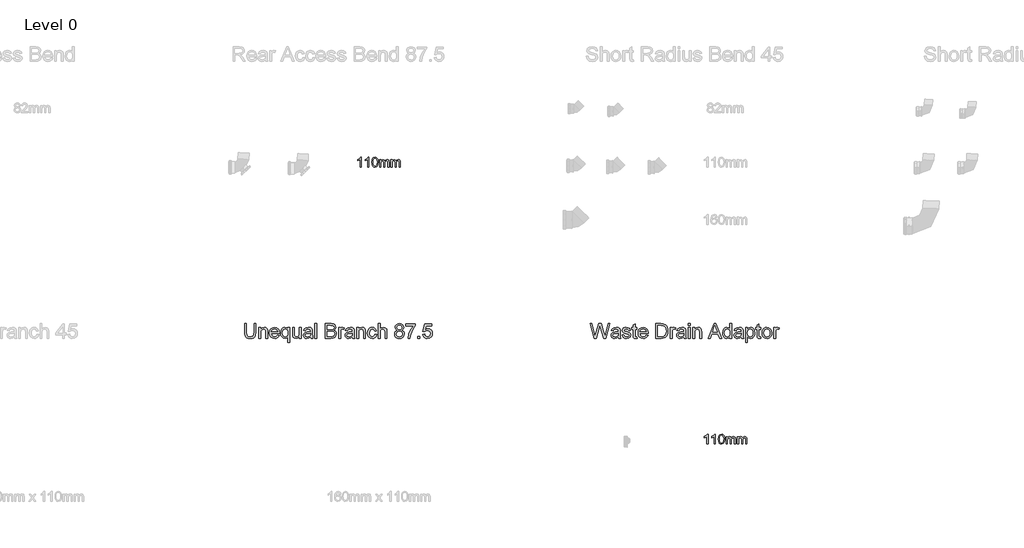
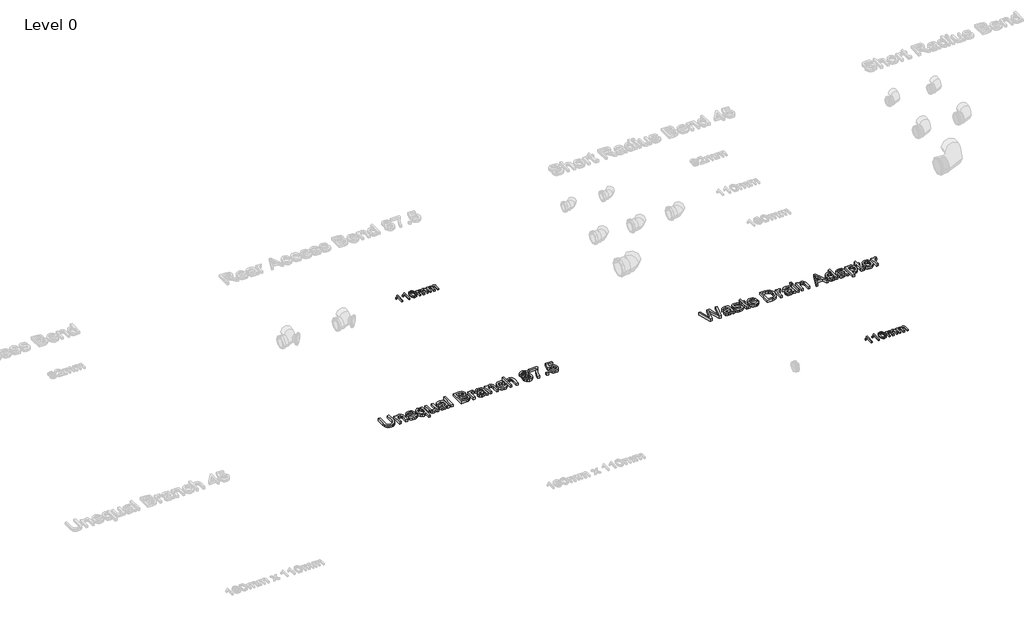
# One storey, part 4 of 23: 4 proxies.
"""IFC4 building model written with IfcOpenShell, lengths in millimetres."""

from ifc_helpers import new_model, si_unit, origin, origin_with_axes, place, context, project, spatial, polyline, outline, extrude, element, save

model = new_model("IFC4")

# Units and contexts
model_context = context("Model", 3, world=origin())
ifc_project = project(units=[si_unit("LENGTHUNIT", "METRE", prefix="MILLI")], contexts=[model_context])

# Site, building, storey
site = spatial("IfcSite", under=ifc_project)
building = spatial("IfcBuilding", under=site)
storey = spatial("IfcBuildingStorey", under=building, Name="Level 0", Elevation=0.0)

# Proxies
placement = place(None, origin())
element("IfcBuildingElementProxy", 1, Name="100mm Arial", ObjectType="100mm Arial", at=placement, inside=storey, context=model_context, shape_type="SweptSolid", body=[
    extrude(outline(polyline([(-10291.7293188, -162.2832696), (-10304.0370111, -162.2832696), (-10304.0370111, -85.5525004), (-10315.6956649, -93.8577889), (-10328.6523957, -100.0717312), (-10328.6523957, -88.4371158), (-10310.6115303, -76.9226927), (-10299.6620111, -63.8217312), (-10291.7293188, -63.8217312), (-10291.7293188, -162.2832696)])), origin_with_axes(), (0.0, 0.0, 1.0), 15.0),
    extrude(outline(polyline([(-10216.3447034, -162.2832696), (-10228.6523957, -162.2832696), (-10228.6523957, -85.5525004), (-10240.3110495, -93.8577889), (-10253.2677803, -100.0717312), (-10253.2677803, -88.4371158), (-10235.2269149, -76.9226927), (-10224.2773957, -63.8217312), (-10216.3447034, -63.8217312), (-10216.3447034, -162.2832696)])), origin_with_axes(), (0.0, 0.0, 1.0), 15.0),
    extrude(outline(polyline([(-10187.1139341, -113.8457696), (-10183.4961457, -85.5164427), (-10172.7509534, -69.1823081), (-10154.8062418, -63.8217312), (-10140.4312418, -66.9948081), (-10130.5033572, -76.1414427), (-10124.7341264, -90.7087504), (-10122.4985495, -113.8457696), (-10126.0802803, -142.0549042), (-10136.7894149, -158.4250965), (-10154.8062418, -163.8217312), (-10167.5947034, -161.4779812), (-10177.3062418, -154.4467312), (-10184.6620111, -137.7940869), (-10187.1139341, -113.8457696)]), holes=[polyline([(-10174.8062418, -113.8217312), (-10173.3639341, -133.1817071), (-10169.0370111, -144.386635), (-10162.5947034, -149.7321879), (-10154.8062418, -151.5140389), (-10147.0177803, -149.7261783), (-10140.5754726, -144.3625965), (-10136.2485495, -133.151659), (-10134.8062418, -113.8217312), (-10136.2004726, -94.8974523), (-10140.3831649, -83.605385), (-10146.8134534, -77.9984139), (-10154.9504726, -76.1294235), (-10162.6547995, -77.7760581), (-10168.8447034, -82.7159619), (-10173.3158572, -94.7111542), (-10174.8062418, -113.8217312)])]), origin_with_axes(), (0.0, 0.0, 1.0), 15.0),
    extrude(outline(polyline([(-10108.6523957, -162.2832696), (-10108.6523957, -89.9755773), (-10096.3447034, -89.9755773), (-10096.3447034, -101.8746158), (-10087.8831649, -92.1270196), (-10075.8398957, -88.4371158), (-10063.5081649, -92.199135), (-10056.7293188, -102.7400004), (-10047.1259534, -92.0128369), (-10034.9985495, -88.4371158), (-10025.7467466, -89.9244956), (-10018.9047995, -94.386635), (-10014.6770351, -101.9437264), (-10013.2677803, -112.7159619), (-10013.2677803, -162.2832696), (-10025.5754726, -162.2832696), (-10025.5754726, -118.0044235), (-10026.7172995, -107.7279812), (-10030.8519149, -102.667885), (-10037.8831649, -100.7448081), (-10049.9865303, -105.6726927), (-10054.8062418, -121.4659619), (-10054.8062418, -162.2832696), (-10067.1139341, -162.2832696), (-10067.1139341, -116.6342312), (-10069.9624918, -104.7111542), (-10079.3014341, -100.7448081), (-10088.4120111, -103.3890389), (-10094.4697034, -111.1294235), (-10096.3447034, -125.8169235), (-10096.3447034, -162.2832696), (-10108.6523957, -162.2832696)])), origin_with_axes(), (0.0, 0.0, 1.0), 15.0),
    extrude(outline(polyline([(-9994.8062418, -162.2832696), (-9994.8062418, -89.9755773), (-9982.4985495, -89.9755773), (-9982.4985495, -101.8746158), (-9974.0370111, -92.1270196), (-9961.9937418, -88.4371158), (-9949.6620111, -92.199135), (-9942.8831649, -102.7400004), (-9933.2797995, -92.0128369), (-9921.1523957, -88.4371158), (-9911.9005928, -89.9244956), (-9905.0586457, -94.386635), (-9900.8308813, -101.9437264), (-9899.4216264, -112.7159619), (-9899.4216264, -162.2832696), (-9911.7293188, -162.2832696), (-9911.7293188, -118.0044235), (-9912.8711457, -107.7279812), (-9917.0057611, -102.667885), (-9924.0370111, -100.7448081), (-9936.1403764, -105.6726927), (-9940.960088, -121.4659619), (-9940.960088, -162.2832696), (-9953.2677803, -162.2832696), (-9953.2677803, -116.6342312), (-9956.116338, -104.7111542), (-9965.4552803, -100.7448081), (-9974.5658572, -103.3890389), (-9980.6235495, -111.1294235), (-9982.4985495, -125.8169235), (-9982.4985495, -162.2832696), (-9994.8062418, -162.2832696)])), origin_with_axes(), (0.0, 0.0, 1.0), 15.0),
])
element("IfcBuildingElementProxy", 2, Name="100mm Arial", ObjectType="100mm Arial", at=placement, inside=storey, context=model_context, shape_type="SweptSolid", body=[
    extrude(outline(polyline([(-6791.7293188, -2962.2832696), (-6804.0370111, -2962.2832696), (-6804.0370111, -2885.5525004), (-6815.6956649, -2893.8577889), (-6828.6523957, -2900.0717312), (-6828.6523957, -2888.4371158), (-6810.6115303, -2876.9226927), (-6799.6620111, -2863.8217312), (-6791.7293188, -2863.8217312), (-6791.7293188, -2962.2832696)])), origin_with_axes(), (0.0, 0.0, 1.0), 15.0),
    extrude(outline(polyline([(-6716.3447034, -2962.2832696), (-6728.6523957, -2962.2832696), (-6728.6523957, -2885.5525004), (-6740.3110495, -2893.8577889), (-6753.2677803, -2900.0717312), (-6753.2677803, -2888.4371158), (-6735.2269149, -2876.9226927), (-6724.2773957, -2863.8217312), (-6716.3447034, -2863.8217312), (-6716.3447034, -2962.2832696)])), origin_with_axes(), (0.0, 0.0, 1.0), 15.0),
    extrude(outline(polyline([(-6687.1139341, -2913.8457696), (-6683.4961457, -2885.5164427), (-6672.7509534, -2869.1823081), (-6654.8062418, -2863.8217312), (-6640.4312418, -2866.9948081), (-6630.5033572, -2876.1414427), (-6624.7341264, -2890.7087504), (-6622.4985495, -2913.8457696), (-6626.0802803, -2942.0549042), (-6636.7894149, -2958.4250965), (-6654.8062418, -2963.8217312), (-6667.5947034, -2961.4779812), (-6677.3062418, -2954.4467312), (-6684.6620111, -2937.7940869), (-6687.1139341, -2913.8457696)]), holes=[polyline([(-6674.8062418, -2913.8217312), (-6673.3639341, -2933.1817071), (-6669.0370111, -2944.386635), (-6662.5947034, -2949.7321879), (-6654.8062418, -2951.5140389), (-6647.0177803, -2949.7261783), (-6640.5754726, -2944.3625965), (-6636.2485495, -2933.151659), (-6634.8062418, -2913.8217312), (-6636.2004726, -2894.8974523), (-6640.3831649, -2883.605385), (-6646.8134534, -2877.9984139), (-6654.9504726, -2876.1294235), (-6662.6547995, -2877.7760581), (-6668.8447034, -2882.7159619), (-6673.3158572, -2894.7111542), (-6674.8062418, -2913.8217312)])]), origin_with_axes(), (0.0, 0.0, 1.0), 15.0),
    extrude(outline(polyline([(-6608.6523957, -2962.2832696), (-6608.6523957, -2889.9755773), (-6596.3447034, -2889.9755773), (-6596.3447034, -2901.8746158), (-6587.8831649, -2892.1270196), (-6575.8398957, -2888.4371158), (-6563.5081649, -2892.199135), (-6556.7293188, -2902.7400004), (-6547.1259534, -2892.0128369), (-6534.9985495, -2888.4371158), (-6525.7467466, -2889.9244956), (-6518.9047995, -2894.386635), (-6514.6770351, -2901.9437264), (-6513.2677803, -2912.7159619), (-6513.2677803, -2962.2832696), (-6525.5754726, -2962.2832696), (-6525.5754726, -2918.0044235), (-6526.7172995, -2907.7279812), (-6530.8519149, -2902.667885), (-6537.8831649, -2900.7448081), (-6549.9865303, -2905.6726927), (-6554.8062418, -2921.4659619), (-6554.8062418, -2962.2832696), (-6567.1139341, -2962.2832696), (-6567.1139341, -2916.6342312), (-6569.9624918, -2904.7111542), (-6579.3014341, -2900.7448081), (-6588.4120111, -2903.3890389), (-6594.4697034, -2911.1294235), (-6596.3447034, -2925.8169235), (-6596.3447034, -2962.2832696), (-6608.6523957, -2962.2832696)])), origin_with_axes(), (0.0, 0.0, 1.0), 15.0),
    extrude(outline(polyline([(-6494.8062418, -2962.2832696), (-6494.8062418, -2889.9755773), (-6482.4985495, -2889.9755773), (-6482.4985495, -2901.8746158), (-6474.0370111, -2892.1270196), (-6461.9937418, -2888.4371158), (-6449.6620111, -2892.199135), (-6442.8831649, -2902.7400004), (-6433.2797995, -2892.0128369), (-6421.1523957, -2888.4371158), (-6411.9005928, -2889.9244956), (-6405.0586457, -2894.386635), (-6400.8308813, -2901.9437264), (-6399.4216264, -2912.7159619), (-6399.4216264, -2962.2832696), (-6411.7293188, -2962.2832696), (-6411.7293188, -2918.0044235), (-6412.8711457, -2907.7279812), (-6417.0057611, -2902.667885), (-6424.0370111, -2900.7448081), (-6436.1403764, -2905.6726927), (-6440.960088, -2921.4659619), (-6440.960088, -2962.2832696), (-6453.2677803, -2962.2832696), (-6453.2677803, -2916.6342312), (-6456.116338, -2904.7111542), (-6465.4552803, -2900.7448081), (-6474.5658572, -2903.3890389), (-6480.6235495, -2911.1294235), (-6482.4985495, -2925.8169235), (-6482.4985495, -2962.2832696), (-6494.8062418, -2962.2832696)])), origin_with_axes(), (0.0, 0.0, 1.0), 15.0),
])
element("IfcBuildingElementProxy", 3, Name="150mm Arial", ObjectType="150mm Arial", at=placement, inside=storey, context=model_context, shape_type="SweptSolid", body=[
    extrude(outline(polyline([(-11375.9895281, -1747.0931704), (-11357.5279897, -1747.0931704), (-11357.5279897, -1832.2974973), (-11362.5400089, -1867.6160069), (-11369.5622445, -1879.4699733), (-11380.6049127, -1888.8900454), (-11395.695057, -1895.0423891), (-11414.8597204, -1897.0931704), (-11433.6052132, -1895.3083146), (-11448.5916916, -1889.9537473), (-11459.8236627, -1881.2142641), (-11467.3056339, -1869.2746608), (-11471.5108622, -1853.2605382), (-11472.912605, -1832.2974973), (-11472.912605, -1747.0931704), (-11454.4510666, -1747.0931704), (-11454.4510666, -1831.6484589), (-11450.8092397, -1859.7914877), (-11445.8603214, -1867.7917882), (-11438.2972204, -1873.7277858), (-11416.5904897, -1878.6316319), (-11397.8134464, -1876.2067521), (-11385.3284704, -1868.9321127), (-11378.3242637, -1854.7614396), (-11375.9895281, -1831.6484589), (-11375.9895281, -1747.0931704)])), origin_with_axes(), (0.0, 0.0, 1.0), 25.0),
    extrude(outline(polyline([(-11327.5279897, -1894.7854781), (-11327.5279897, -1786.3239396), (-11309.0664512, -1786.3239396), (-11309.0664512, -1801.4681704), (-11294.9498647, -1788.3792281), (-11275.6770281, -1784.0162473), (-11258.2431339, -1787.5318723), (-11246.3440954, -1796.7626415), (-11240.8092397, -1810.3383627), (-11239.835682, -1828.1869204), (-11239.835682, -1894.7854781), (-11258.2972204, -1894.7854781), (-11258.2972204, -1830.6749012), (-11260.4246243, -1814.3407665), (-11267.9426531, -1805.7049492), (-11280.616932, -1802.4777858), (-11291.4297324, -1804.2896848), (-11300.64698, -1809.7253819), (-11306.9615834, -1820.2271848), (-11309.0664512, -1837.2374012), (-11309.0664512, -1894.7854781), (-11327.5279897, -1894.7854781)])), origin_with_axes(), (0.0, 0.0, 1.0), 25.0),
    extrude(outline(polyline([(-11138.5135666, -1862.4777858), (-11120.412605, -1864.7854781), (-11126.9345401, -1878.4243002), (-11137.3416916, -1888.6196127), (-11151.3996844, -1894.974781), (-11168.8741435, -1897.0931704), (-11190.5358022, -1893.4378218), (-11207.2034704, -1882.4717762), (-11217.8314752, -1864.9071728), (-11221.3741435, -1841.4561512), (-11217.7954175, -1817.2163675), (-11207.0592397, -1799.0883627), (-11190.616932, -1787.7842762), (-11169.9198166, -1784.0162473), (-11149.8672324, -1787.7752617), (-11133.8440954, -1799.052305), (-11123.3377853, -1817.1442521), (-11119.835682, -1841.3479781), (-11119.943855, -1846.3239396), (-11202.912605, -1846.3239396), (-11199.7169921, -1860.1430502), (-11192.2936147, -1870.302305), (-11181.5799728, -1876.5493002), (-11168.5135666, -1878.6316319), (-11150.412605, -1874.7734589), (-11138.5135666, -1862.4777858)]), holes=[polyline([(-11202.912605, -1827.8624012), (-11138.2972204, -1827.8624012), (-11140.7942156, -1818.1087954), (-11145.6890473, -1811.1316319), (-11156.4522685, -1804.6412473), (-11169.991932, -1802.4777858), (-11182.436343, -1804.2040478), (-11192.726307, -1809.3828339), (-11199.8792517, -1817.4552497), (-11202.912605, -1827.8624012)])]), origin_with_axes(), (0.0, 0.0, 1.0), 25.0),
    extrude(outline(polyline([(-11034.4510666, -1936.3239396), (-11034.4510666, -1880.0018242), (-11046.1698166, -1892.2253819), (-11062.179432, -1897.0931704), (-11079.7305137, -1893.2485189), (-11094.6674127, -1881.7145646), (-11104.8897685, -1863.4828939), (-11108.2972204, -1839.5450935), (-11102.8885666, -1810.302305), (-11096.2629656, -1798.9261031), (-11087.2034704, -1790.6869204), (-11076.4312348, -1785.6839156), (-11064.6674127, -1784.0162473), (-11047.5039512, -1789.1905262), (-11034.4510666, -1804.7133627), (-11034.4510666, -1786.3239396), (-11015.9895281, -1786.3239396), (-11015.9895281, -1936.3239396), (-11034.4510666, -1936.3239396)]), holes=[polyline([(-11089.835682, -1840.5547089), (-11087.7578574, -1857.2133627), (-11081.5243839, -1869.1124012), (-11072.3882661, -1876.2518242), (-11061.6025089, -1878.6316319), (-11051.2674728, -1876.3690117), (-11042.4739031, -1869.5811512), (-11036.4567757, -1858.1688915), (-11034.4510666, -1842.0330742), (-11036.5649488, -1824.7839757), (-11042.9065954, -1812.41168), (-11052.0967997, -1804.9612593), (-11062.756355, -1802.4777858), (-11073.217593, -1804.7899853), (-11081.9570762, -1811.7265839), (-11087.8660305, -1823.5580141), (-11089.835682, -1840.5547089)])]), origin_with_axes(), (0.0, 0.0, 1.0), 25.0),
    extrude(outline(polyline([(-10919.0664512, -1894.7854781), (-10919.0664512, -1876.1436512), (-10933.5255858, -1891.8557906), (-10952.3837589, -1897.0931704), (-10969.7455377, -1893.4152858), (-10981.7166916, -1884.1845165), (-10987.2154897, -1870.5907665), (-10988.2972204, -1853.427305), (-10988.2972204, -1786.3239396), (-10969.835682, -1786.3239396), (-10969.835682, -1844.7374012), (-10968.7178935, -1863.5595165), (-10961.4162108, -1874.6111992), (-10947.6602012, -1878.6316319), (-10932.2455377, -1874.521055), (-10922.0592397, -1863.3251415), (-10919.0664512, -1842.7542281), (-10919.0664512, -1786.3239396), (-10900.6049127, -1786.3239396), (-10900.6049127, -1894.7854781), (-10919.0664512, -1894.7854781)])), origin_with_axes(), (0.0, 0.0, 1.0), 25.0),
    extrude(outline(polyline([(-10805.9895281, -1880.9393242), (-10823.8921723, -1893.4513435), (-10843.6698166, -1897.0931704), (-10859.0980017, -1894.9026656), (-10870.4787108, -1888.3311512), (-10877.4964392, -1878.3521848), (-10879.835682, -1865.9393242), (-10876.3020281, -1851.3359589), (-10867.0171723, -1840.7349973), (-10854.0904897, -1834.677305), (-10838.116932, -1831.9008627), (-10806.0977012, -1825.5547089), (-10805.9895281, -1821.4441319), (-10807.2605618, -1813.2049492), (-10811.0736627, -1807.8143242), (-10819.601307, -1803.8119204), (-10831.4823166, -1802.4777858), (-10850.1602012, -1806.0294685), (-10859.0664512, -1818.6316319), (-10877.5279897, -1816.3239396), (-10869.5412108, -1798.2950935), (-10853.45948, -1787.7301896), (-10829.1025089, -1784.0162473), (-10806.7287108, -1787.2974973), (-10794.0904897, -1795.53668), (-10788.429432, -1808.0667281), (-10787.5279897, -1824.2205742), (-10787.5279897, -1847.1893242), (-10786.5904897, -1879.2626415), (-10782.912605, -1894.7854781), (-10801.3741435, -1894.7854781), (-10805.9895281, -1880.9393242)]), holes=[polyline([(-10805.9895281, -1844.0162473), (-10835.773182, -1849.677305), (-10851.6565954, -1852.6700935), (-10858.850105, -1857.5378819), (-10861.3741435, -1864.6412473), (-10855.8753454, -1874.6292281), (-10839.7395281, -1878.6316319), (-10821.0616435, -1874.2145646), (-10809.0183743, -1863.5234589), (-10806.0977012, -1849.2446127), (-10805.9895281, -1844.0162473)])]), origin_with_axes(), (0.0, 0.0, 1.0), 25.0),
    extrude(outline(polyline([(-10762.1433743, -1894.7854781), (-10762.1433743, -1747.0931704), (-10743.6818358, -1747.0931704), (-10743.6818358, -1894.7854781), (-10762.1433743, -1894.7854781)])), origin_with_axes(), (0.0, 0.0, 1.0), 25.0),
    extrude(outline(polyline([(-10655.9895281, -1894.7854781), (-10655.9895281, -1747.0931704), (-10599.631355, -1747.0931704), (-10572.0291916, -1751.4381223), (-10562.7533502, -1756.950442), (-10555.7311147, -1764.7974973), (-10549.835682, -1783.6917281), (-10554.7936147, -1800.9453339), (-10569.7755858, -1814.0162473), (-10559.3143478, -1819.4789877), (-10551.58448, -1827.7902858), (-10546.811343, -1838.4002617), (-10545.2202973, -1850.7590358), (-10549.5652493, -1870.6087954), (-10560.3284704, -1884.7434108), (-10576.3921723, -1892.2434108), (-10600.0640473, -1894.7854781), (-10655.9895281, -1894.7854781)]), holes=[polyline([(-10637.5279897, -1876.3239396), (-10599.6674127, -1876.3239396), (-10585.9654897, -1875.6027858), (-10574.3729416, -1871.5823531), (-10566.6926531, -1863.3792281), (-10563.6818358, -1850.9393242), (-10567.2154897, -1836.5883627), (-10578.663807, -1828.0246608), (-10601.4702973, -1825.5547089), (-10637.5279897, -1825.5547089), (-10637.5279897, -1876.3239396)]), polyline([(-10637.5279897, -1807.0931704), (-10603.8140473, -1807.0931704), (-10584.1265473, -1805.5066319), (-10572.2815954, -1798.6736992), (-10568.2972204, -1786.6484589), (-10572.0111627, -1774.6051896), (-10582.648182, -1767.4837954), (-10606.3741435, -1765.5547089), (-10637.5279897, -1765.5547089), (-10637.5279897, -1807.0931704)])]), origin_with_axes(), (0.0, 0.0, 1.0), 25.0),
    extrude(outline(polyline([(-10522.1433743, -1894.7854781), (-10522.1433743, -1786.3239396), (-10505.9895281, -1786.3239396), (-10505.9895281, -1802.3696127), (-10494.523182, -1787.5859589), (-10482.9847204, -1784.0162473), (-10464.4510666, -1789.7133627), (-10470.616932, -1806.2638435), (-10483.5977012, -1802.4777858), (-10494.0364031, -1806.1196127), (-10500.6890473, -1816.2157665), (-10503.6818358, -1837.7782665), (-10503.6818358, -1894.7854781), (-10522.1433743, -1894.7854781)])), origin_with_axes(), (0.0, 0.0, 1.0), 25.0),
    extrude(outline(polyline([(-10383.6818358, -1880.9393242), (-10401.58448, -1893.4513435), (-10421.3621243, -1897.0931704), (-10436.7903094, -1894.9026656), (-10448.1710185, -1888.3311512), (-10455.1887469, -1878.3521848), (-10457.5279897, -1865.9393242), (-10453.9943358, -1851.3359589), (-10444.70948, -1840.7349973), (-10431.7827973, -1834.677305), (-10415.8092397, -1831.9008627), (-10383.7900089, -1825.5547089), (-10383.6818358, -1821.4441319), (-10384.9528695, -1813.2049492), (-10388.7659704, -1807.8143242), (-10397.2936147, -1803.8119204), (-10409.1746243, -1802.4777858), (-10427.8525089, -1806.0294685), (-10436.7587589, -1818.6316319), (-10455.2202973, -1816.3239396), (-10447.2335185, -1798.2950935), (-10431.1517877, -1787.7301896), (-10406.7948166, -1784.0162473), (-10384.4210185, -1787.2974973), (-10371.7827973, -1795.53668), (-10366.1217397, -1808.0667281), (-10365.2202973, -1824.2205742), (-10365.2202973, -1847.1893242), (-10364.2827973, -1879.2626415), (-10360.6049127, -1894.7854781), (-10379.0664512, -1894.7854781), (-10383.6818358, -1880.9393242)]), holes=[polyline([(-10383.6818358, -1844.0162473), (-10413.4654897, -1849.677305), (-10429.3489031, -1852.6700935), (-10436.5424127, -1857.5378819), (-10439.0664512, -1864.6412473), (-10433.5676531, -1874.6292281), (-10417.4318358, -1878.6316319), (-10398.7539512, -1874.2145646), (-10386.710682, -1863.5234589), (-10383.7900089, -1849.2446127), (-10383.6818358, -1844.0162473)])]), origin_with_axes(), (0.0, 0.0, 1.0), 25.0),
    extrude(outline(polyline([(-10339.835682, -1894.7854781), (-10339.835682, -1786.3239396), (-10321.3741435, -1786.3239396), (-10321.3741435, -1801.4681704), (-10307.257557, -1788.3792281), (-10287.9847204, -1784.0162473), (-10270.5508262, -1787.5318723), (-10258.6517877, -1796.7626415), (-10253.116932, -1810.3383627), (-10252.1433743, -1828.1869204), (-10252.1433743, -1894.7854781), (-10270.6049127, -1894.7854781), (-10270.6049127, -1830.6749012), (-10272.7323166, -1814.3407665), (-10280.2503454, -1805.7049492), (-10292.9246243, -1802.4777858), (-10303.7374247, -1804.2896848), (-10312.9546723, -1809.7253819), (-10319.2692757, -1820.2271848), (-10321.3741435, -1837.2374012), (-10321.3741435, -1894.7854781), (-10339.835682, -1894.7854781)])), origin_with_axes(), (0.0, 0.0, 1.0), 25.0),
    extrude(outline(polyline([(-10157.5279897, -1855.5547089), (-10139.0664512, -1857.8624012), (-10144.2136868, -1874.2821728), (-10153.8861627, -1886.6905262), (-10167.1734223, -1894.4925093), (-10183.1650089, -1897.0931704), (-10202.8029296, -1893.4648651), (-10218.1589993, -1882.5799492), (-10228.0703574, -1864.9161872), (-10231.3741435, -1840.9513435), (-10225.7311147, -1810.2842762), (-10218.6097204, -1798.7863795), (-10208.5315954, -1790.5787473), (-10196.4748046, -1785.6568723), (-10183.4174127, -1784.0162473), (-10167.8179536, -1786.2698531), (-10155.3464993, -1793.0306704), (-10146.3996844, -1803.9381223), (-10141.3741435, -1818.6316319), (-10159.835682, -1820.9393242), (-10168.3993839, -1807.1111992), (-10183.273182, -1802.4777858), (-10195.2037709, -1804.7584348), (-10204.6734223, -1811.6003819), (-10210.8528094, -1823.3732185), (-10212.912605, -1840.4465358), (-10210.8978815, -1857.7497209), (-10204.8537108, -1869.5631223), (-10195.5553334, -1876.3645045), (-10183.7779897, -1878.6316319), (-10174.218194, -1877.2163675), (-10166.3801531, -1872.9705742), (-10160.6785305, -1865.786079), (-10157.5279897, -1855.5547089)])), origin_with_axes(), (0.0, 0.0, 1.0), 25.0),
    extrude(outline(polyline([(-10122.912605, -1894.7854781), (-10122.912605, -1747.0931704), (-10104.4510666, -1747.0931704), (-10104.4510666, -1801.396055), (-10090.0550329, -1788.3611992), (-10072.3236627, -1784.0162473), (-10051.5904897, -1788.7578339), (-10039.006355, -1801.864805), (-10035.2202973, -1826.1316319), (-10035.2202973, -1894.7854781), (-10053.6818358, -1894.7854781), (-10053.6818358, -1828.0426896), (-10055.1511868, -1816.4861992), (-10059.5592397, -1808.5715358), (-10066.662605, -1804.0012233), (-10076.2178935, -1802.4777858), (-10091.3440954, -1806.5883627), (-10101.4402493, -1817.7301896), (-10104.4510666, -1837.1652858), (-10104.4510666, -1894.7854781), (-10122.912605, -1894.7854781)])), origin_with_axes(), (0.0, 0.0, 1.0), 25.0),
    extrude(outline(polyline([(-9929.8597204, -1813.4393242), (-9946.6806339, -1801.9729781), (-9952.1433743, -1784.1244204), (-9949.1686147, -1769.692329), (-9940.2443358, -1757.7662473), (-9926.3711387, -1749.7614396), (-9908.5496243, -1747.0931704), (-9890.6199368, -1749.8245406), (-9876.5664512, -1758.0186512), (-9867.4799127, -1770.1340358), (-9864.4510666, -1784.6292281), (-9869.8416916, -1802.0270646), (-9886.193855, -1813.4393242), (-9874.8311747, -1819.294192), (-9866.5604416, -1827.9164877), (-9861.5168719, -1838.8915478), (-9859.835682, -1851.8047089), (-9863.1710185, -1869.4549492), (-9873.1770281, -1884.0402858), (-9888.6277493, -1893.8299492), (-9908.2972204, -1897.0931704), (-9927.9666916, -1893.8164276), (-9943.4174127, -1883.9861992), (-9953.4234223, -1869.2611391), (-9956.7587589, -1851.2999012), (-9955.0099608, -1837.8864396), (-9949.7635666, -1826.8527858), (-9941.2900089, -1818.5775454), (-9929.8597204, -1813.4393242)]), holes=[polyline([(-9938.2972204, -1850.6508627), (-9935.2142877, -1864.5511031), (-9924.3068358, -1874.9537473), (-9908.1529897, -1878.6316319), (-9895.5868839, -1876.6980382), (-9886.1577973, -1870.8972569), (-9880.2623647, -1862.1127016), (-9878.2972204, -1851.2277858), (-9880.3254656, -1840.1580742), (-9886.4102012, -1831.1797089), (-9896.0556339, -1825.2301896), (-9908.7659704, -1823.2470165), (-9921.1562949, -1825.2031464), (-9930.49073, -1831.0715358), (-9936.3455978, -1839.8786271), (-9938.2972204, -1850.6508627)]), polyline([(-9933.6818358, -1784.6652858), (-9932.045718, -1792.72418), (-9927.1373647, -1799.1604781), (-9919.1010065, -1803.3792281), (-9908.0808743, -1804.7854781), (-9897.3176531, -1803.3882425), (-9889.4029897, -1799.1965358), (-9884.5352012, -1792.9765839), (-9882.912605, -1785.4946127), (-9884.5892877, -1777.7286872), (-9889.6193358, -1771.3059108), (-9897.6421723, -1766.9925093), (-9908.2972204, -1765.5547089), (-9919.0198767, -1766.9609589), (-9927.0291916, -1771.1797089), (-9932.0186747, -1777.3636031), (-9933.6818358, -1784.6652858)])]), origin_with_axes(), (0.0, 0.0, 1.0), 25.0),
    extrude(outline(polyline([(-9843.6818358, -1767.8624012), (-9843.6818358, -1749.4008627), (-9746.7587589, -1749.4008627), (-9746.7587589, -1764.3287473), (-9774.2527493, -1804.0462954), (-9795.2924127, -1854.6532665), (-9802.1433743, -1894.7854781), (-9820.6049127, -1894.7854781), (-9813.2671723, -1853.1388435), (-9793.1289512, -1806.0655262), (-9765.2202973, -1767.8624012), (-9843.6818358, -1767.8624012)])), origin_with_axes(), (0.0, 0.0, 1.0), 25.0),
    extrude(outline(polyline([(-9721.3741435, -1894.7854781), (-9721.3741435, -1876.3239396), (-9702.912605, -1876.3239396), (-9702.912605, -1894.7854781), (-9721.3741435, -1894.7854781)])), origin_with_axes(), (0.0, 0.0, 1.0), 25.0),
    extrude(outline(polyline([(-9672.912605, -1855.5547089), (-9654.4510666, -1853.2470165), (-9651.0616435, -1864.3302497), (-9645.148182, -1872.2674492), (-9636.7377252, -1877.0405863), (-9625.8573166, -1878.6316319), (-9612.6241435, -1876.4185911), (-9602.7082781, -1869.7794685), (-9596.5153695, -1859.4804901), (-9594.4510666, -1846.2878819), (-9596.3846603, -1833.8660069), (-9602.1854416, -1824.364805), (-9611.8984824, -1818.334156), (-9625.568855, -1816.3239396), (-9641.7767877, -1819.5330742), (-9652.1433743, -1827.8624012), (-9670.6049127, -1825.5547089), (-9654.4510666, -1749.4008627), (-9582.912605, -1749.4008627), (-9582.912605, -1767.8624012), (-9639.523182, -1767.8624012), (-9647.4198166, -1808.5354781), (-9634.2317156, -1800.5306704), (-9620.412605, -1797.8624012), (-9603.1635065, -1801.1706944), (-9588.8440954, -1811.0955742), (-9579.2031699, -1826.2217762), (-9575.9895281, -1845.1340358), (-9578.8831579, -1863.5955742), (-9587.5640473, -1879.3888435), (-9604.1866435, -1892.6670887), (-9625.929432, -1897.0931704), (-9644.061944, -1894.2491199), (-9658.507557, -1885.7169685), (-9668.4099007, -1872.4883026), (-9672.912605, -1855.5547089)])), origin_with_axes(), (0.0, 0.0, 1.0), 25.0),
])
element("IfcBuildingElementProxy", 4, Name="150mm Arial", ObjectType="150mm Arial", at=placement, inside=storey, context=model_context, shape_type="SweptSolid", body=[
    extrude(outline(polyline([(-7943.0207781, -1894.7854781), (-7983.2972204, -1747.0931704), (-7964.2587589, -1747.0931704), (-7940.8933743, -1844.1604781), (-7933.6818358, -1874.1244204), (-7925.9654897, -1847.6220165), (-7896.6866435, -1747.0931704), (-7869.2467397, -1747.0931704), (-7847.9727012, -1819.9657665), (-7832.1433743, -1874.1244204), (-7825.148182, -1845.0258627), (-7801.5664512, -1747.0931704), (-7782.5279897, -1747.0931704), (-7822.8404897, -1894.7854781), (-7842.5640473, -1894.7854781), (-7877.9727012, -1780.8431704), (-7882.912605, -1764.9417281), (-7888.4654897, -1784.0883627), (-7920.7371243, -1894.7854781), (-7943.0207781, -1894.7854781)])), origin_with_axes(), (0.0, 0.0, 1.0), 25.0),
    extrude(outline(polyline([(-7697.1433743, -1880.9393242), (-7715.0460185, -1893.4513435), (-7734.8236627, -1897.0931704), (-7750.2518478, -1894.9026656), (-7761.632557, -1888.3311512), (-7768.6502853, -1878.3521848), (-7770.9895281, -1865.9393242), (-7767.4558743, -1851.3359589), (-7758.1710185, -1840.7349973), (-7745.2443358, -1834.677305), (-7729.2707781, -1831.9008627), (-7697.2515473, -1825.5547089), (-7697.1433743, -1821.4441319), (-7698.4144079, -1813.2049492), (-7702.2275089, -1807.8143242), (-7710.7551531, -1803.8119204), (-7722.6361627, -1802.4777858), (-7741.3140473, -1806.0294685), (-7750.2202973, -1818.6316319), (-7768.6818358, -1816.3239396), (-7760.695057, -1798.2950935), (-7744.6133262, -1787.7301896), (-7720.256355, -1784.0162473), (-7697.882557, -1787.2974973), (-7685.2443358, -1795.53668), (-7679.5832781, -1808.0667281), (-7678.6818358, -1824.2205742), (-7678.6818358, -1847.1893242), (-7677.7443358, -1879.2626415), (-7674.0664512, -1894.7854781), (-7692.5279897, -1894.7854781), (-7697.1433743, -1880.9393242)]), holes=[polyline([(-7697.1433743, -1844.0162473), (-7726.9270281, -1849.677305), (-7742.8104416, -1852.6700935), (-7750.0039512, -1857.5378819), (-7752.5279897, -1864.6412473), (-7747.0291916, -1874.6292281), (-7730.8933743, -1878.6316319), (-7712.2154897, -1874.2145646), (-7700.1722204, -1863.5234589), (-7697.2515473, -1849.2446127), (-7697.1433743, -1844.0162473)])]), origin_with_axes(), (0.0, 0.0, 1.0), 25.0),
    extrude(outline(polyline([(-7660.2202973, -1862.4777858), (-7641.7587589, -1860.1700935), (-7638.8471002, -1868.0667281), (-7633.2130858, -1873.8720165), (-7613.6337589, -1878.6316319), (-7594.8116435, -1874.2686512), (-7588.6818358, -1864.0282665), (-7594.8477012, -1855.7349973), (-7613.850105, -1850.4705742), (-7641.6505858, -1841.4381223), (-7653.7839993, -1830.8912473), (-7657.912605, -1815.9994204), (-7654.5952973, -1802.2434108), (-7645.5448166, -1791.7325935), (-7633.8080377, -1786.2698531), (-7617.9246243, -1784.0162473), (-7595.460682, -1787.6400454), (-7581.1818358, -1797.4477377), (-7574.835682, -1814.0162473), (-7593.2972204, -1816.3239396), (-7600.2383262, -1806.1376415), (-7616.4823166, -1802.4777858), (-7634.1505858, -1805.9753819), (-7639.4510666, -1814.1244204), (-7637.2515473, -1819.4970165), (-7630.3645281, -1823.5715358), (-7614.4630858, -1827.5018242), (-7587.36573, -1836.1917281), (-7574.7815954, -1846.0354781), (-7570.2202973, -1862.0811512), (-7575.5748647, -1879.7494204), (-7591.0255858, -1892.56793), (-7613.8861627, -1897.0931704), (-7632.5009464, -1894.91168), (-7646.085682, -1888.3672089), (-7655.1541916, -1877.5318723), (-7660.2202973, -1862.4777858)])), origin_with_axes(), (0.0, 0.0, 1.0), 25.0),
    extrude(outline(polyline([(-7510.2202973, -1879.3888435), (-7507.912605, -1895.3263435), (-7521.7227012, -1897.0931704), (-7537.1914512, -1894.0282665), (-7544.9077973, -1885.9874012), (-7547.1433743, -1865.0378819), (-7547.1433743, -1804.7854781), (-7560.9895281, -1804.7854781), (-7560.9895281, -1786.3239396), (-7547.1433743, -1786.3239396), (-7547.1433743, -1759.9657665), (-7528.6818358, -1749.1124012), (-7528.6818358, -1786.3239396), (-7510.2202973, -1786.3239396), (-7510.2202973, -1804.7854781), (-7528.6818358, -1804.7854781), (-7528.6818358, -1864.4970165), (-7527.7082781, -1874.0162473), (-7524.55323, -1877.3876415), (-7518.2611627, -1878.6316319), (-7510.2202973, -1879.3888435)])), origin_with_axes(), (0.0, 0.0, 1.0), 25.0),
    extrude(outline(polyline([(-7415.8212589, -1862.4777858), (-7397.7202973, -1864.7854781), (-7404.2422324, -1878.4243002), (-7414.6493839, -1888.6196127), (-7428.7073767, -1894.974781), (-7446.1818358, -1897.0931704), (-7467.8434945, -1893.4378218), (-7484.5111627, -1882.4717762), (-7495.1391675, -1864.9071728), (-7498.6818358, -1841.4561512), (-7495.1031098, -1817.2163675), (-7484.366932, -1799.0883627), (-7467.9246243, -1787.7842762), (-7447.2275089, -1784.0162473), (-7427.1749247, -1787.7752617), (-7411.1517877, -1799.052305), (-7400.6454776, -1817.1442521), (-7397.1433743, -1841.3479781), (-7397.2515473, -1846.3239396), (-7480.2202973, -1846.3239396), (-7477.0246844, -1860.1430502), (-7469.601307, -1870.302305), (-7458.8876651, -1876.5493002), (-7445.8212589, -1878.6316319), (-7427.7202973, -1874.7734589), (-7415.8212589, -1862.4777858)]), holes=[polyline([(-7480.2202973, -1827.8624012), (-7415.6049127, -1827.8624012), (-7418.1019079, -1818.1087954), (-7422.9967397, -1811.1316319), (-7433.7599608, -1804.6412473), (-7447.2996243, -1802.4777858), (-7459.7440353, -1804.2040478), (-7470.0339993, -1809.3828339), (-7477.186944, -1817.4552497), (-7480.2202973, -1827.8624012)])]), origin_with_axes(), (0.0, 0.0, 1.0), 25.0),
    extrude(outline(polyline([(-7318.6818358, -1894.7854781), (-7318.6818358, -1747.0931704), (-7267.7323166, -1747.0931704), (-7241.3741435, -1749.2205742), (-7219.6674127, -1759.7854781), (-7209.4540714, -1771.0354781), (-7202.179432, -1785.0258627), (-7197.8254656, -1801.4861992), (-7196.3741435, -1820.146055), (-7200.304432, -1849.9477377), (-7210.4005858, -1871.4561512), (-7223.8861627, -1884.8515839), (-7241.5364031, -1892.2614396), (-7265.2803935, -1894.7854781), (-7318.6818358, -1894.7854781)]), holes=[polyline([(-7300.2202973, -1876.3239396), (-7267.5520281, -1876.3239396), (-7243.7900089, -1873.6556704), (-7230.0880858, -1866.1196127), (-7218.8561147, -1847.7842762), (-7214.835682, -1819.8575935), (-7216.8053334, -1799.7374012), (-7222.7142877, -1784.8816319), (-7231.4447565, -1774.677305), (-7241.8789512, -1768.5114396), (-7268.0568358, -1765.5547089), (-7300.2202973, -1765.5547089), (-7300.2202973, -1876.3239396)])]), origin_with_axes(), (0.0, 0.0, 1.0), 25.0),
    extrude(outline(polyline([(-7173.2972204, -1894.7854781), (-7173.2972204, -1786.3239396), (-7157.1433743, -1786.3239396), (-7157.1433743, -1802.3696127), (-7145.6770281, -1787.5859589), (-7134.1385666, -1784.0162473), (-7115.6049127, -1789.7133627), (-7121.7707781, -1806.2638435), (-7134.7515473, -1802.4777858), (-7145.1902493, -1806.1196127), (-7151.8428935, -1816.2157665), (-7154.835682, -1837.7782665), (-7154.835682, -1894.7854781), (-7173.2972204, -1894.7854781)])), origin_with_axes(), (0.0, 0.0, 1.0), 25.0),
    extrude(outline(polyline([(-7034.835682, -1880.9393242), (-7052.7383262, -1893.4513435), (-7072.5159704, -1897.0931704), (-7087.9441555, -1894.9026656), (-7099.3248647, -1888.3311512), (-7106.342593, -1878.3521848), (-7108.6818358, -1865.9393242), (-7105.148182, -1851.3359589), (-7095.8633262, -1840.7349973), (-7082.9366435, -1834.677305), (-7066.9630858, -1831.9008627), (-7034.943855, -1825.5547089), (-7034.835682, -1821.4441319), (-7036.1067156, -1813.2049492), (-7039.9198166, -1807.8143242), (-7048.4474608, -1803.8119204), (-7060.3284704, -1802.4777858), (-7079.006355, -1806.0294685), (-7087.912605, -1818.6316319), (-7106.3741435, -1816.3239396), (-7098.3873647, -1798.2950935), (-7082.3056339, -1787.7301896), (-7057.9486627, -1784.0162473), (-7035.5748647, -1787.2974973), (-7022.9366435, -1795.53668), (-7017.2755858, -1808.0667281), (-7016.3741435, -1824.2205742), (-7016.3741435, -1847.1893242), (-7015.4366435, -1879.2626415), (-7011.7587589, -1894.7854781), (-7030.2202973, -1894.7854781), (-7034.835682, -1880.9393242)]), holes=[polyline([(-7034.835682, -1844.0162473), (-7064.6193358, -1849.677305), (-7080.5027493, -1852.6700935), (-7087.6962589, -1857.5378819), (-7090.2202973, -1864.6412473), (-7084.7214993, -1874.6292281), (-7068.585682, -1878.6316319), (-7049.9077973, -1874.2145646), (-7037.8645281, -1863.5234589), (-7034.943855, -1849.2446127), (-7034.835682, -1844.0162473)])]), origin_with_axes(), (0.0, 0.0, 1.0), 25.0),
    extrude(outline(polyline([(-6990.9895281, -1765.5547089), (-6990.9895281, -1747.0931704), (-6972.5279897, -1747.0931704), (-6972.5279897, -1765.5547089), (-6990.9895281, -1765.5547089)])), origin_with_axes(), (0.0, 0.0, 1.0), 25.0),
    extrude(outline(polyline([(-6990.9895281, -1894.7854781), (-6990.9895281, -1786.3239396), (-6972.5279897, -1786.3239396), (-6972.5279897, -1894.7854781), (-6990.9895281, -1894.7854781)])), origin_with_axes(), (0.0, 0.0, 1.0), 25.0),
    extrude(outline(polyline([(-6944.835682, -1894.7854781), (-6944.835682, -1786.3239396), (-6926.3741435, -1786.3239396), (-6926.3741435, -1801.4681704), (-6912.257557, -1788.3792281), (-6892.9847204, -1784.0162473), (-6875.5508262, -1787.5318723), (-6863.6517877, -1796.7626415), (-6858.116932, -1810.3383627), (-6857.1433743, -1828.1869204), (-6857.1433743, -1894.7854781), (-6875.6049127, -1894.7854781), (-6875.6049127, -1830.6749012), (-6877.7323166, -1814.3407665), (-6885.2503454, -1805.7049492), (-6897.9246243, -1802.4777858), (-6908.7374247, -1804.2896848), (-6917.9546723, -1809.7253819), (-6924.2692757, -1820.2271848), (-6926.3741435, -1837.2374012), (-6926.3741435, -1894.7854781), (-6944.835682, -1894.7854781)])), origin_with_axes(), (0.0, 0.0, 1.0), 25.0),
    extrude(outline(polyline([(-6788.9582781, -1894.7854781), (-6730.0039512, -1747.0931704), (-6714.2827973, -1747.0931704), (-6655.3284704, -1894.7854781), (-6674.835682, -1894.7854781), (-6691.7467397, -1848.6316319), (-6752.5760666, -1848.6316319), (-6769.4510666, -1894.7854781), (-6788.9582781, -1894.7854781)]), holes=[polyline([(-6745.7972204, -1830.1700935), (-6698.4895281, -1830.1700935), (-6711.7948166, -1793.8599973), (-6722.1433743, -1765.5547089), (-6731.3380858, -1790.6869204), (-6745.7972204, -1830.1700935)])]), origin_with_axes(), (0.0, 0.0, 1.0), 25.0),
    extrude(outline(polyline([(-6570.9895281, -1894.7854781), (-6570.9895281, -1877.3696127), (-6583.2040714, -1892.162281), (-6600.0880858, -1897.0931704), (-6612.023182, -1895.3083146), (-6622.9486627, -1889.9537473), (-6632.1974608, -1881.403567), (-6639.1025089, -1870.0318723), (-6643.4023887, -1856.2983988), (-6644.835682, -1840.6628819), (-6639.55323, -1811.2758627), (-6632.9546723, -1799.6202137), (-6623.7239031, -1791.0474973), (-6612.5595401, -1785.7740598), (-6600.1602012, -1784.0162473), (-6583.1409704, -1789.0462954), (-6570.9895281, -1802.1172089), (-6570.9895281, -1747.0931704), (-6552.5279897, -1747.0931704), (-6552.5279897, -1894.7854781), (-6570.9895281, -1894.7854781)]), holes=[polyline([(-6626.3741435, -1840.5907665), (-6624.2918118, -1857.2899853), (-6618.0448166, -1869.1664877), (-6608.9672925, -1876.2653459), (-6598.3933743, -1878.6316319), (-6587.8239632, -1876.3735189), (-6578.976307, -1869.59918), (-6572.9862228, -1858.1824132), (-6570.9895281, -1841.9970165), (-6573.0222805, -1824.301704), (-6579.1205377, -1812.0330742), (-6588.1935546, -1804.8666079), (-6599.1505858, -1802.4777858), (-6609.8326772, -1804.7719564), (-6618.585682, -1811.6544685), (-6624.4270281, -1823.4768843), (-6626.3741435, -1840.5907665)])]), origin_with_axes(), (0.0, 0.0, 1.0), 25.0),
    extrude(outline(polyline([(-6455.6049127, -1880.9393242), (-6473.507557, -1893.4513435), (-6493.2852012, -1897.0931704), (-6508.7133863, -1894.9026656), (-6520.0940954, -1888.3311512), (-6527.1118238, -1878.3521848), (-6529.4510666, -1865.9393242), (-6525.9174127, -1851.3359589), (-6516.632557, -1840.7349973), (-6503.7058743, -1834.677305), (-6487.7323166, -1831.9008627), (-6455.7130858, -1825.5547089), (-6455.6049127, -1821.4441319), (-6456.8759464, -1813.2049492), (-6460.6890473, -1807.8143242), (-6469.2166916, -1803.8119204), (-6481.0977012, -1802.4777858), (-6499.7755858, -1806.0294685), (-6508.6818358, -1818.6316319), (-6527.1433743, -1816.3239396), (-6519.1565954, -1798.2950935), (-6503.0748647, -1787.7301896), (-6478.7178935, -1784.0162473), (-6456.3440954, -1787.2974973), (-6443.7058743, -1795.53668), (-6438.0448166, -1808.0667281), (-6437.1433743, -1824.2205742), (-6437.1433743, -1847.1893242), (-6436.2058743, -1879.2626415), (-6432.5279897, -1894.7854781), (-6450.9895281, -1894.7854781), (-6455.6049127, -1880.9393242)]), holes=[polyline([(-6455.6049127, -1844.0162473), (-6485.3885666, -1849.677305), (-6501.27198, -1852.6700935), (-6508.4654897, -1857.5378819), (-6510.9895281, -1864.6412473), (-6505.49073, -1874.6292281), (-6489.3549127, -1878.6316319), (-6470.6770281, -1874.2145646), (-6458.6337589, -1863.5234589), (-6455.7130858, -1849.2446127), (-6455.6049127, -1844.0162473)])]), origin_with_axes(), (0.0, 0.0, 1.0), 25.0),
    extrude(outline(polyline([(-6411.7587589, -1936.3239396), (-6411.7587589, -1786.3239396), (-6393.2972204, -1786.3239396), (-6393.2972204, -1804.4249012), (-6380.5327973, -1789.1184108), (-6363.2972204, -1784.0162473), (-6350.8122445, -1785.8011031), (-6339.8957781, -1791.1556704), (-6331.007557, -1799.75543), (-6324.6073166, -1811.2758627), (-6319.4510666, -1839.7253819), (-6320.9068959, -1855.5141439), (-6325.2743839, -1869.6352377), (-6332.413807, -1881.3720165), (-6342.1854416, -1890.0078339), (-6353.5661507, -1895.3218363), (-6365.5327973, -1897.0931704), (-6381.5964993, -1892.3515839), (-6393.2972204, -1880.3624012), (-6393.2972204, -1936.3239396), (-6411.7587589, -1936.3239396)]), holes=[polyline([(-6393.2972204, -1841.4200935), (-6391.3005257, -1857.9705742), (-6385.3104416, -1869.5450935), (-6376.4717997, -1876.3599973), (-6365.929432, -1878.6316319), (-6355.2157901, -1876.2788675), (-6346.1517877, -1869.2205742), (-6339.9724007, -1857.2223771), (-6337.912605, -1840.0499012), (-6339.9228214, -1823.5895646), (-6345.9534704, -1811.8527858), (-6354.7785906, -1804.8215358), (-6365.1722204, -1802.4777858), (-6375.6064151, -1804.9702738), (-6384.7695762, -1812.4477377), (-6391.1653094, -1824.6758026), (-6393.2972204, -1841.4200935)])]), origin_with_axes(), (0.0, 0.0, 1.0), 25.0),
    extrude(outline(polyline([(-6259.4510666, -1879.3888435), (-6257.1433743, -1895.3263435), (-6270.9534704, -1897.0931704), (-6286.4222204, -1894.0282665), (-6294.1385666, -1885.9874012), (-6296.3741435, -1865.0378819), (-6296.3741435, -1804.7854781), (-6310.2202973, -1804.7854781), (-6310.2202973, -1786.3239396), (-6296.3741435, -1786.3239396), (-6296.3741435, -1759.9657665), (-6277.912605, -1749.1124012), (-6277.912605, -1786.3239396), (-6259.4510666, -1786.3239396), (-6259.4510666, -1804.7854781), (-6277.912605, -1804.7854781), (-6277.912605, -1864.4970165), (-6276.9390473, -1874.0162473), (-6273.7839993, -1877.3876415), (-6267.491932, -1878.6316319), (-6259.4510666, -1879.3888435)])), origin_with_axes(), (0.0, 0.0, 1.0), 25.0),
    extrude(outline(polyline([(-6245.6049127, -1840.5547089), (-6241.6115233, -1814.4038675), (-6229.631355, -1796.0234589), (-6214.8296723, -1787.0180502), (-6197.1073166, -1784.0162473), (-6177.7127853, -1787.6715959), (-6162.2214993, -1798.6376415), (-6152.0667517, -1816.0489997), (-6148.6818358, -1839.0402858), (-6150.17823, -1857.6911271), (-6154.6674127, -1871.8888435), (-6162.0186747, -1882.5213555), (-6172.101307, -1890.4765839), (-6184.076968, -1895.4390238), (-6197.1073166, -1897.0931704), (-6216.7362228, -1893.4513435), (-6232.20948, -1882.5258627), (-6242.2560546, -1864.7494204), (-6245.6049127, -1840.5547089)]), holes=[polyline([(-6227.1433743, -1840.5186512), (-6225.006956, -1857.2268843), (-6218.5977012, -1869.13043), (-6208.9522685, -1876.2563314), (-6197.1073166, -1878.6316319), (-6185.3164512, -1876.2428098), (-6175.6890473, -1869.0763435), (-6169.2797925, -1857.0150454), (-6167.1433743, -1839.9417281), (-6169.2933142, -1823.7202738), (-6175.7431339, -1811.9789877), (-6185.3840594, -1804.8530863), (-6197.1073166, -1802.4777858), (-6208.9522685, -1804.8440718), (-6218.5977012, -1811.94293), (-6225.006956, -1823.8194324), (-6227.1433743, -1840.5186512)])]), origin_with_axes(), (0.0, 0.0, 1.0), 25.0),
    extrude(outline(polyline([(-6127.912605, -1894.7854781), (-6127.912605, -1786.3239396), (-6111.7587589, -1786.3239396), (-6111.7587589, -1802.3696127), (-6100.2924127, -1787.5859589), (-6088.7539512, -1784.0162473), (-6070.2202973, -1789.7133627), (-6076.3861627, -1806.2638435), (-6089.366932, -1802.4777858), (-6099.8056339, -1806.1196127), (-6106.4582781, -1816.2157665), (-6109.4510666, -1837.7782665), (-6109.4510666, -1894.7854781), (-6127.912605, -1894.7854781)])), origin_with_axes(), (0.0, 0.0, 1.0), 25.0),
])

save(model, "model.ifc")
